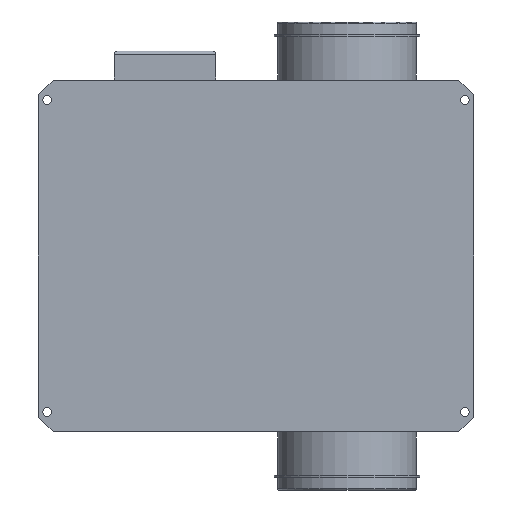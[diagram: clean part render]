
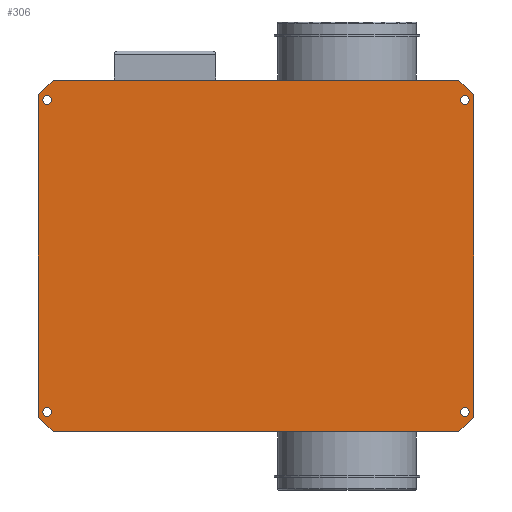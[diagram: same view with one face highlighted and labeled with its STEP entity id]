
A CAD part, front view. The second image highlights one B-rep face of the part: STEP entity #306.
In plain terms, the highlighted planar face has unit normal (0, -1, 0).
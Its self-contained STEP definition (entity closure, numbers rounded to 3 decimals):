
#306=ADVANCED_FACE('',(#638,#639,#640,#641,#642),#643,.F.);
#638=FACE_OUTER_BOUND('',#976,.T.);
#639=FACE_BOUND('',#977,.T.);
#640=FACE_BOUND('',#978,.T.);
#641=FACE_BOUND('',#979,.T.);
#642=FACE_BOUND('',#980,.T.);
#643=PLANE('',#981);
#976=EDGE_LOOP('',(#1817,#1818,#1819,#1820,#1821,#1822,#1823,#1824));
#977=EDGE_LOOP('',(#1825,#1826));
#978=EDGE_LOOP('',(#1827,#1828));
#979=EDGE_LOOP('',(#1829,#1830));
#980=EDGE_LOOP('',(#1831,#1832));
#981=AXIS2_PLACEMENT_3D('',#1833,#1834,#1835);
#1817=ORIENTED_EDGE('',*,*,#2215,.T.);
#1818=ORIENTED_EDGE('',*,*,#2273,.F.);
#1819=ORIENTED_EDGE('',*,*,#2228,.T.);
#1820=ORIENTED_EDGE('',*,*,#2225,.T.);
#1821=ORIENTED_EDGE('',*,*,#2222,.T.);
#1822=ORIENTED_EDGE('',*,*,#2274,.F.);
#1823=ORIENTED_EDGE('',*,*,#2231,.T.);
#1824=ORIENTED_EDGE('',*,*,#2218,.F.);
#1825=ORIENTED_EDGE('',*,*,#2240,.T.);
#1826=ORIENTED_EDGE('',*,*,#1936,.T.);
#1827=ORIENTED_EDGE('',*,*,#2238,.T.);
#1828=ORIENTED_EDGE('',*,*,#1941,.T.);
#1829=ORIENTED_EDGE('',*,*,#2236,.T.);
#1830=ORIENTED_EDGE('',*,*,#1946,.T.);
#1831=ORIENTED_EDGE('',*,*,#2234,.T.);
#1832=ORIENTED_EDGE('',*,*,#1951,.T.);
#1833=CARTESIAN_POINT('',(0.0,-117.5,0.0));
#1834=DIRECTION('',(0.0,1.0,-0.0));
#1835=DIRECTION('',(-0.0,0.0,1.0));
#1936=EDGE_CURVE('',#2307,#2311,#2313,.T.);
#1941=EDGE_CURVE('',#2316,#2320,#2322,.T.);
#1946=EDGE_CURVE('',#2325,#2329,#2331,.T.);
#1951=EDGE_CURVE('',#2334,#2338,#2340,.T.);
#2215=EDGE_CURVE('',#2741,#2739,#2742,.T.);
#2218=EDGE_CURVE('',#2741,#2745,#2746,.T.);
#2222=EDGE_CURVE('',#2751,#2749,#2752,.T.);
#2225=EDGE_CURVE('',#2755,#2751,#2756,.T.);
#2228=EDGE_CURVE('',#2759,#2755,#2760,.T.);
#2231=EDGE_CURVE('',#2763,#2745,#2764,.T.);
#2234=EDGE_CURVE('',#2338,#2334,#2767,.T.);
#2236=EDGE_CURVE('',#2329,#2325,#2769,.T.);
#2238=EDGE_CURVE('',#2320,#2316,#2771,.T.);
#2240=EDGE_CURVE('',#2311,#2307,#2773,.T.);
#2273=EDGE_CURVE('',#2759,#2739,#2818,.T.);
#2274=EDGE_CURVE('',#2763,#2749,#2819,.T.);
#2307=VERTEX_POINT('',#2892);
#2311=VERTEX_POINT('',#2897);
#2313=CIRCLE('',#2900,5.0);
#2316=VERTEX_POINT('',#2903);
#2320=VERTEX_POINT('',#2908);
#2322=CIRCLE('',#2911,5.0);
#2325=VERTEX_POINT('',#2914);
#2329=VERTEX_POINT('',#2919);
#2331=CIRCLE('',#2922,5.0);
#2334=VERTEX_POINT('',#2925);
#2338=VERTEX_POINT('',#2930);
#2340=CIRCLE('',#2933,5.0);
#2739=VERTEX_POINT('',#3431);
#2741=VERTEX_POINT('',#3434);
#2742=LINE('',#3435,#3436);
#2745=VERTEX_POINT('',#3440);
#2746=LINE('',#3441,#3442);
#2749=VERTEX_POINT('',#3446);
#2751=VERTEX_POINT('',#3449);
#2752=LINE('',#3450,#3451);
#2755=VERTEX_POINT('',#3455);
#2756=LINE('',#3456,#3457);
#2759=VERTEX_POINT('',#3461);
#2760=LINE('',#3462,#3463);
#2763=VERTEX_POINT('',#3467);
#2764=LINE('',#3468,#3469);
#2767=CIRCLE('',#3473,5.0);
#2769=CIRCLE('',#3475,5.0);
#2771=CIRCLE('',#3477,5.0);
#2773=CIRCLE('',#3479,5.0);
#2818=LINE('',#3534,#3535);
#2819=LINE('',#3536,#3537);
#2892=CARTESIAN_POINT('',(-236.0,-117.5,-180.0));
#2897=CARTESIAN_POINT('',(-246.0,-117.5,-180.0));
#2900=AXIS2_PLACEMENT_3D('',#3571,#3572,#3573);
#2903=CARTESIAN_POINT('',(-236.0,-117.5,180.0));
#2908=CARTESIAN_POINT('',(-246.0,-117.5,180.0));
#2911=AXIS2_PLACEMENT_3D('',#3579,#3580,#3581);
#2914=CARTESIAN_POINT('',(246.0,-117.5,180.0));
#2919=CARTESIAN_POINT('',(236.0,-117.5,180.0));
#2922=AXIS2_PLACEMENT_3D('',#3587,#3588,#3589);
#2925=CARTESIAN_POINT('',(246.0,-117.5,-180.0));
#2930=CARTESIAN_POINT('',(236.0,-117.5,-180.0));
#2933=AXIS2_PLACEMENT_3D('',#3595,#3596,#3597);
#3431=CARTESIAN_POINT('',(234.0,-117.5,203.0));
#3434=CARTESIAN_POINT('',(251.0,-117.5,186.0));
#3435=CARTESIAN_POINT('',(230.5,-117.5,206.5));
#3436=VECTOR('',#3980,1.0);
#3440=CARTESIAN_POINT('',(251.0,-117.5,-186.0));
#3441=CARTESIAN_POINT('',(251.0,-117.5,0.0));
#3442=VECTOR('',#3982,1.0);
#3446=CARTESIAN_POINT('',(-234.0,-117.5,-203.0));
#3449=CARTESIAN_POINT('',(-251.0,-117.5,-186.0));
#3450=CARTESIAN_POINT('',(-230.5,-117.5,-206.5));
#3451=VECTOR('',#3985,1.0);
#3455=CARTESIAN_POINT('',(-251.0,-117.5,186.0));
#3456=CARTESIAN_POINT('',(-251.0,-117.5,0.0));
#3457=VECTOR('',#3987,1.0);
#3461=CARTESIAN_POINT('',(-234.0,-117.5,203.0));
#3462=CARTESIAN_POINT('',(-230.5,-117.5,206.5));
#3463=VECTOR('',#3989,1.0);
#3467=CARTESIAN_POINT('',(234.0,-117.5,-203.0));
#3468=CARTESIAN_POINT('',(230.5,-117.5,-206.5));
#3469=VECTOR('',#3991,1.0);
#3473=AXIS2_PLACEMENT_3D('',#3993,#3994,#3995);
#3475=AXIS2_PLACEMENT_3D('',#3996,#3997,#3998);
#3477=AXIS2_PLACEMENT_3D('',#3999,#4000,#4001);
#3479=AXIS2_PLACEMENT_3D('',#4002,#4003,#4004);
#3534=CARTESIAN_POINT('',(0.0,-117.5,203.0));
#3535=VECTOR('',#4051,1.0);
#3536=CARTESIAN_POINT('',(0.0,-117.5,-203.0));
#3537=VECTOR('',#4052,1.0);
#3571=CARTESIAN_POINT('',(-241.0,-117.5,-180.0));
#3572=DIRECTION('',(-0.0,1.0,0.0));
#3573=DIRECTION('',(1.0,0.0,0.0));
#3579=CARTESIAN_POINT('',(-241.0,-117.5,180.0));
#3580=DIRECTION('',(-0.0,1.0,0.0));
#3581=DIRECTION('',(1.0,0.0,0.0));
#3587=CARTESIAN_POINT('',(241.0,-117.5,180.0));
#3588=DIRECTION('',(-0.0,1.0,0.0));
#3589=DIRECTION('',(1.0,0.0,0.0));
#3595=CARTESIAN_POINT('',(241.0,-117.5,-180.0));
#3596=DIRECTION('',(-0.0,1.0,0.0));
#3597=DIRECTION('',(1.0,0.0,0.0));
#3980=DIRECTION('',(-0.707,0.0,0.707));
#3982=DIRECTION('',(0.0,0.0,-1.0));
#3985=DIRECTION('',(0.707,0.0,-0.707));
#3987=DIRECTION('',(0.0,0.0,-1.0));
#3989=DIRECTION('',(-0.707,0.0,-0.707));
#3991=DIRECTION('',(0.707,-0.0,0.707));
#3993=CARTESIAN_POINT('',(241.0,-117.5,-180.0));
#3994=DIRECTION('',(-0.0,1.0,0.0));
#3995=DIRECTION('',(1.0,0.0,0.0));
#3996=CARTESIAN_POINT('',(241.0,-117.5,180.0));
#3997=DIRECTION('',(-0.0,1.0,0.0));
#3998=DIRECTION('',(1.0,0.0,0.0));
#3999=CARTESIAN_POINT('',(-241.0,-117.5,180.0));
#4000=DIRECTION('',(-0.0,1.0,0.0));
#4001=DIRECTION('',(1.0,0.0,0.0));
#4002=CARTESIAN_POINT('',(-241.0,-117.5,-180.0));
#4003=DIRECTION('',(-0.0,1.0,0.0));
#4004=DIRECTION('',(1.0,0.0,0.0));
#4051=DIRECTION('',(1.0,0.0,0.0));
#4052=DIRECTION('',(-1.0,0.0,0.0));
